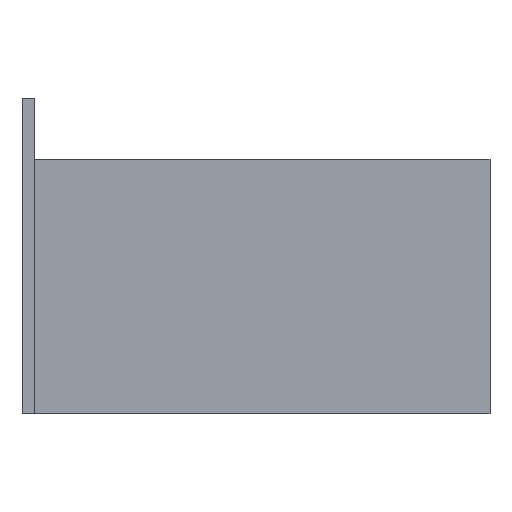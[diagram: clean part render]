
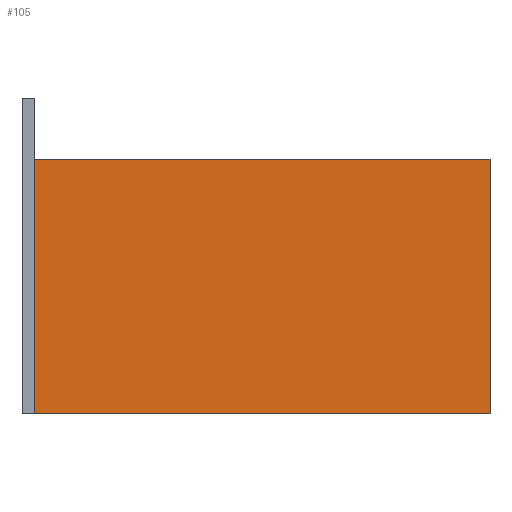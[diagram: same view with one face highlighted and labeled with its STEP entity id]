
A CAD part, left-side view. The second image highlights one B-rep face of the part: STEP entity #105.
In plain terms, the highlighted planar face has unit normal (-1, 0, 0).
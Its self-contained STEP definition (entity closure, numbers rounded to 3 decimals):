
#105=ADVANCED_FACE('',(#147),#623,.T.);
#147=FACE_OUTER_BOUND('',#189,.T.);
#189=EDGE_LOOP('',(#276,#277,#278,#279));
#276=ORIENTED_EDGE('',*,*,#418,.T.);
#277=ORIENTED_EDGE('',*,*,#411,.T.);
#278=ORIENTED_EDGE('',*,*,#419,.F.);
#279=ORIENTED_EDGE('',*,*,#416,.F.);
#411=EDGE_CURVE('',#568,#571,#495,.T.);
#416=EDGE_CURVE('',#574,#575,#500,.T.);
#418=EDGE_CURVE('',#574,#568,#502,.T.);
#419=EDGE_CURVE('',#575,#571,#503,.T.);
#495=B_SPLINE_CURVE_WITH_KNOTS('',1,(#856,#857),.UNSPECIFIED.,.F.,.F.,(2,
2),(0.,450.),.UNSPECIFIED.);
#500=B_SPLINE_CURVE_WITH_KNOTS('',1,(#866,#867),.UNSPECIFIED.,.F.,.F.,(2,
2),(0.,450.),.UNSPECIFIED.);
#502=B_SPLINE_CURVE_WITH_KNOTS('',1,(#870,#871),.UNSPECIFIED.,.F.,.F.,(2,
2),(980.,1920.),.UNSPECIFIED.);
#503=B_SPLINE_CURVE_WITH_KNOTS('',1,(#872,#873),.UNSPECIFIED.,.F.,.F.,(2,
2),(980.,1920.),.UNSPECIFIED.);
#568=VERTEX_POINT('',#842);
#571=VERTEX_POINT('',#845);
#574=VERTEX_POINT('',#848);
#575=VERTEX_POINT('',#849);
#623=PLANE('',#685);
#685=AXIS2_PLACEMENT_3D('',#839,#730,$);
#730=DIRECTION('',(-1.,0.,0.));
#839=CARTESIAN_POINT('',(-25.,959.435,0.));
#842=CARTESIAN_POINT('',(-25.,19.435,0.));
#845=CARTESIAN_POINT('',(-25.,19.435,525.));
#848=CARTESIAN_POINT('',(-25.,959.435,0.));
#849=CARTESIAN_POINT('',(-25.,959.435,525.));
#856=CARTESIAN_POINT('',(-25.,19.435,0.));
#857=CARTESIAN_POINT('',(-25.,19.435,525.));
#866=CARTESIAN_POINT('',(-25.,959.435,0.));
#867=CARTESIAN_POINT('',(-25.,959.435,525.));
#870=CARTESIAN_POINT('',(-25.,959.435,0.));
#871=CARTESIAN_POINT('',(-25.,19.435,0.));
#872=CARTESIAN_POINT('',(-25.,959.435,525.));
#873=CARTESIAN_POINT('',(-25.,19.435,525.));
